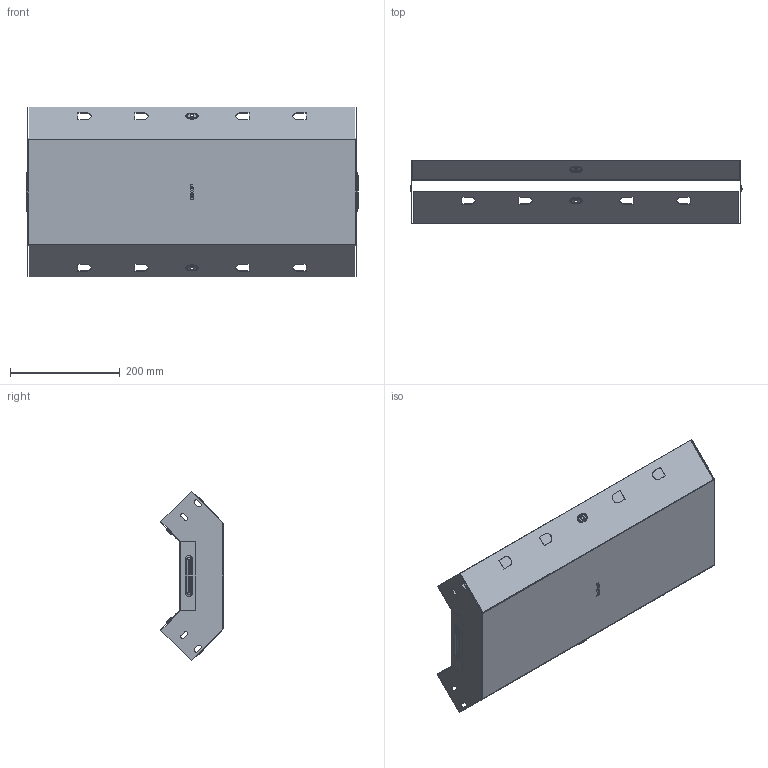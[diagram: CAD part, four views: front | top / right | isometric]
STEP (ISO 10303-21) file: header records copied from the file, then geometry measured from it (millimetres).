
FILE_DESCRIPTION (( 'STEP AP214' ), '1' );
FILE_NAME ('vi9080600_捘.STEP', '2019-06-10T09:22:54', ( '砐錪賧瘔蠈錪 Windows' ), ( '' ), 'SwSTEP 2.0', 'SolidWorks 2018', '' );
FILE_SCHEMA (( 'AUTOMOTIVE_DESIGN' ));
Length unit declared in the file: millimetre
Products named in the file (1): vi9080600_捘
Bounding box: 605.6 x 116.16 x 310.02 mm (x, y, z)
Volume: 318734.9 mm3; surface area: 801160.9 mm2
Topology: 2 solids, 2 shells, 468 faces, 1212 edges, 776 vertices
Faces by surface type: plane 254, cylinder 132, torus 64, bspline 18
Entity records: 15224 total; most frequent: CARTESIAN_POINT 3476, DIRECTION 2438, ORIENTED_EDGE 2424, EDGE_CURVE 1212, LINE 816, VECTOR 816, AXIS2_PLACEMENT_3D 811, VERTEX_POINT 776
